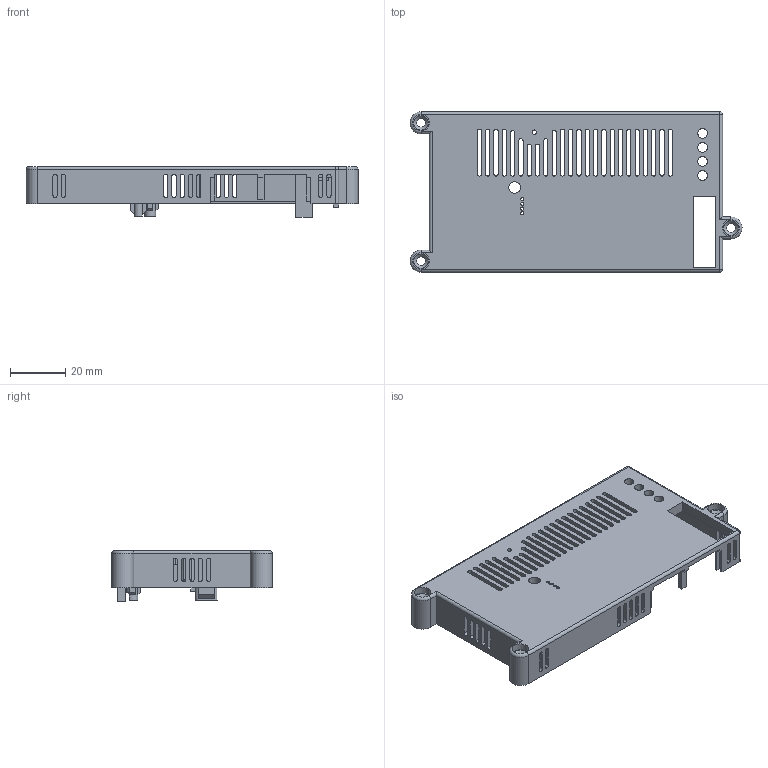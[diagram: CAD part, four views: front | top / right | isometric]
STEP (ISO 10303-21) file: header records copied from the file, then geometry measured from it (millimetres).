
FILE_DESCRIPTION(/* description */ (''),/* implementation_level */ '2;1');
FILE_NAME(/* name */ 'E:\Inventor-Dateien\GBMBoost_Master_AKL_MEBP_KK\GBMBoost_Master_AKL_MEBP_KK_TOP.stp',/* time_stamp */ '2022-02-07T14:14:11+01:00',/* author */ ('Hans'),/* organization */ (''),/* preprocessor_version */ 'ST-DEVELOPER v16.5',/* originating_system */ 'Autodesk Inventor 2017',/* authorisation */ '');
FILE_SCHEMA (('AUTOMOTIVE_DESIGN { 1 0 10303 214 3 1 1 }'));
Length unit declared in the file: millimetre
Products named in the file (1): GBMBoost_Wago_Molex_DC-DC_TOP
Bounding box: 120 x 58 x 18.4 mm (x, y, z)
Volume: 19460.8 mm3; surface area: 23400 mm2
Topology: 1 solids, 1 shells, 813 faces, 2277 edges, 1506 vertices
Faces by surface type: plane 482, bspline 183, cylinder 139, cone 4, torus 3, sphere 2
Full cylindrical faces by diameter (mm): 1.15 x4, 1.6 x1, 3.2 x3, 3.5 x4, 4.2 x1, 6 x4
Entity records: 27052 total; most frequent: CARTESIAN_POINT 6946, ORIENTED_EDGE 4500, DIRECTION 3436, EDGE_CURVE 2250, LINE 1590, VECTOR 1590, VERTEX_POINT 1499, EDGE_LOOP 1003
